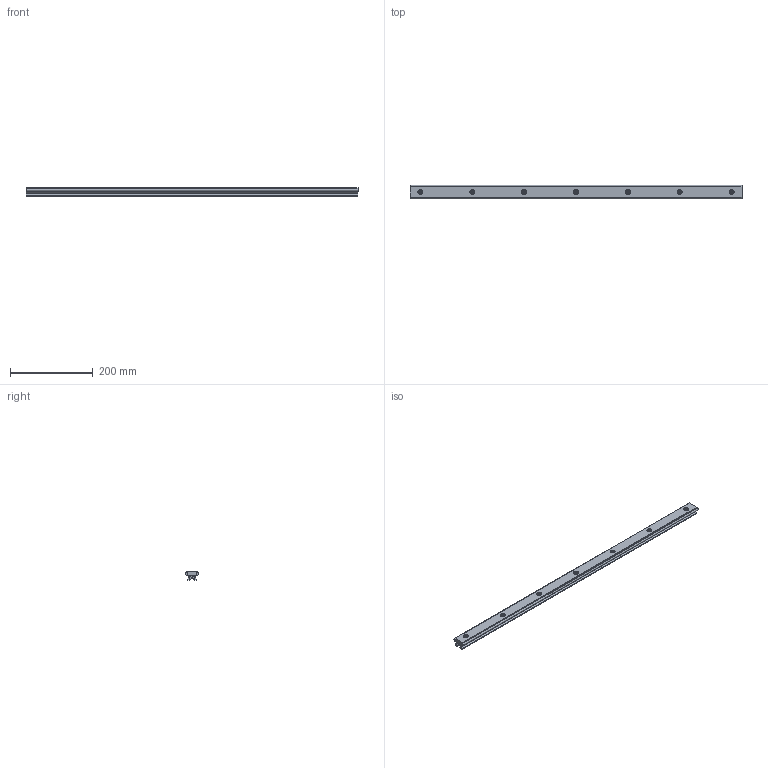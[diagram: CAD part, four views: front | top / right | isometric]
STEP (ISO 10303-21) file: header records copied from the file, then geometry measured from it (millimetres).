
FILE_DESCRIPTION(/* description */ ('Unknown'),/* implementation_level */ '2;1');
FILE_NAME(/* name */ 'Schiene_HLF32_800',/* time_stamp */ '2022-01-26T20:49:04+01:00',/* author */ ('Unknown'),/* organization */ ('Unknown'),/* preprocessor_version */ 'ST-DEVELOPER v16.7',/* originating_system */ 'Solid Edge',/* authorisation */ 'Unknown');
FILE_SCHEMA (('AUTOMOTIVE_DESIGN {1 0 10303 214 3 1 1}'));
Length unit declared in the file: millimetre
Products named in the file (6): Schiene_HLF32_800; HLF32_Profil_oben_800_gebohrt; Welle_Dm_6-800_lang; din_7984_10_9_m_6x12; HLF32_Profil_unten-800; mutter_din_557-m6_m_5
Assembly tree (18 placements, depth 2):
  Schiene_HLF32_800
    HLF32_Profil_oben_800_gebohrt
    Welle_Dm_6-800_lang  x2
    din_7984_10_9_m_6x12  x7
    HLF32_Profil_unten-800
    mutter_din_557-m6_m_5  x7
Bounding box: 800 x 32.01 x 20.01 mm (x, y, z)
Volume: 328315.2 mm3; surface area: 180840.4 mm2
Topology: 18 solids, 18 shells, 322 faces, 753 edges, 495 vertices
Faces by surface type: plane 201, cylinder 86, cone 28, torus 7
Full cylindrical faces by diameter (mm): 4.918 x7, 6 x16, 6.6 x1, 7 x6, 10 x7, 12 x7
Entity records: 4382 total; most frequent: DIRECTION 771, CARTESIAN_POINT 719, ORIENTED_EDGE 656, EDGE_CURVE 328, AXIS2_PLACEMENT_3D 285, VERTEX_POINT 233, LINE 201, VECTOR 201
